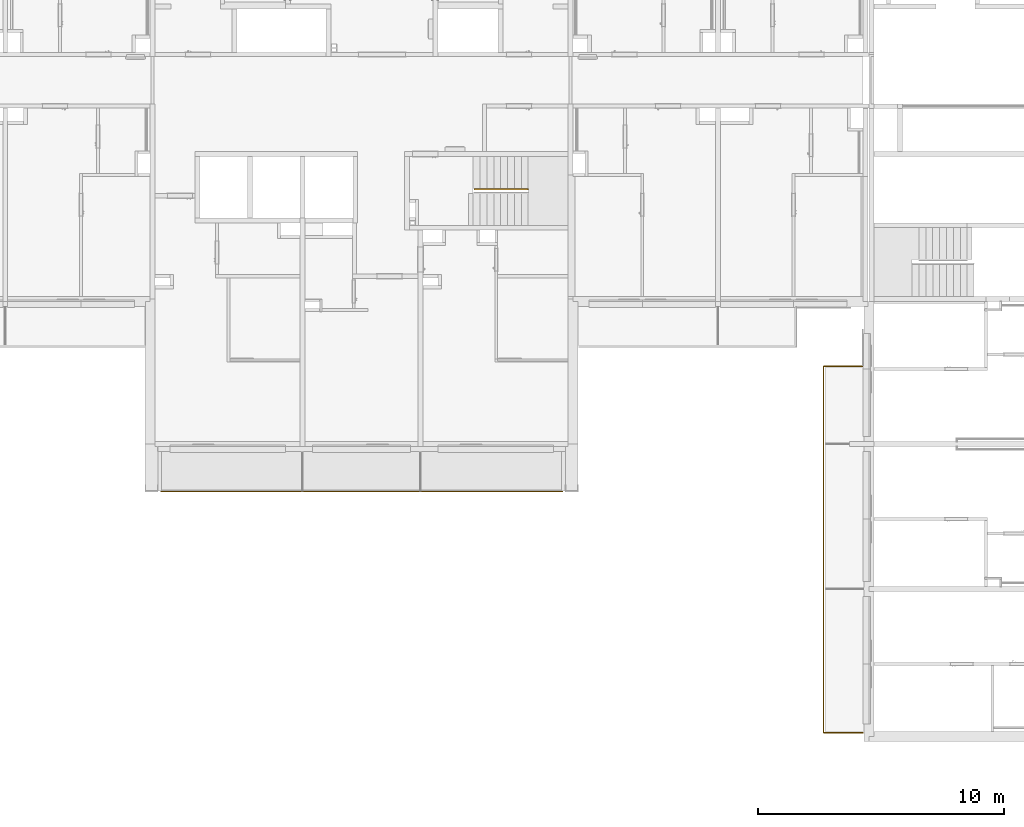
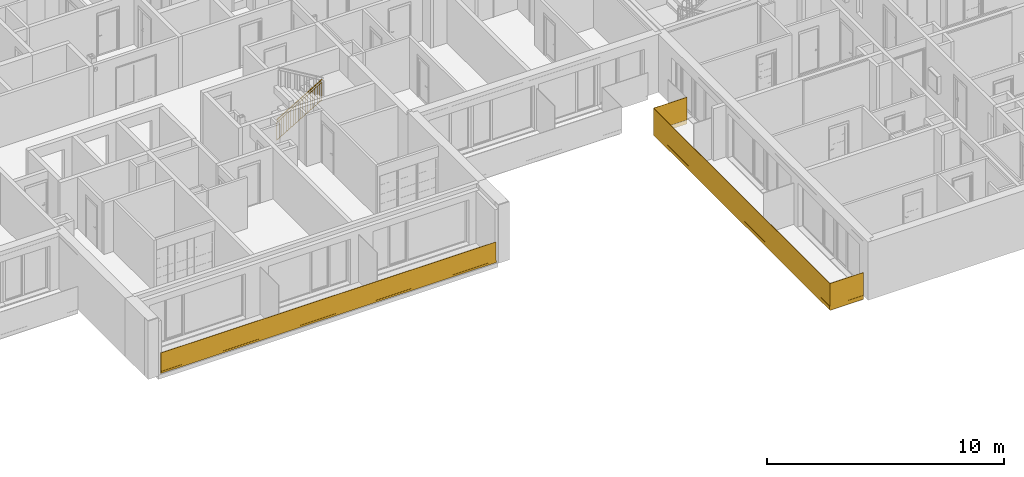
# One storey, part 6 of 66: 3 railings.
"""IFC2X3 building model written with IfcOpenShell, lengths in millimetres."""

from ifc_helpers import new_model, entity, si_unit, converted_unit, derived_unit, money_unit, direction, frame, origin_with_axes, place, context, subcontext, project, spatial, faceted_brep, material, material_list, type_object, element, save


model = new_model("IFC2X3")

# Units and contexts
model_context = context("Model", 3, precision=0.01, world=origin_with_axes(), true_north=direction((0.34421633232, 0.938890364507)))
body_context = subcontext(model_context, "Body", "Model", "MODEL_VIEW")
ifc_project = project(units=[si_unit("LENGTHUNIT", "METRE", prefix="MILLI"), si_unit("AREAUNIT", "SQUARE_METRE"), si_unit("VOLUMEUNIT", "CUBIC_METRE"), converted_unit("PLANEANGLEUNIT", "DEGREE", entity("IfcPlaneAngleMeasure", 0.0174532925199), si_unit("PLANEANGLEUNIT", "RADIAN"), dimensions=[0, 0, 0, 0, 0, 0, 0]), si_unit("SOLIDANGLEUNIT", "STERADIAN"), money_unit("USD"), converted_unit("TIMEUNIT", "Year", entity("IfcTimeMeasure", 31556926.0), si_unit("TIMEUNIT", "SECOND"), dimensions=[0, 0, 1, 0, 0, 0, 0]), si_unit("MASSUNIT", "GRAM", prefix="KILO"), si_unit("THERMODYNAMICTEMPERATUREUNIT", "DEGREE_CELSIUS"), si_unit("LUMINOUSINTENSITYUNIT", "LUMEN"), si_unit("ENERGYUNIT", "JOULE", prefix="MEGA"), derived_unit("THERMALCONDUCTANCEUNIT", [(si_unit("POWERUNIT", "WATT"), 1), (si_unit("LENGTHUNIT", "METRE"), -1), (si_unit("THERMODYNAMICTEMPERATUREUNIT", "KELVIN"), -1)]), derived_unit("SPECIFICHEATCAPACITYUNIT", [(si_unit("ENERGYUNIT", "JOULE"), 1), (si_unit("MASSUNIT", "GRAM", prefix="KILO"), -1), (si_unit("THERMODYNAMICTEMPERATUREUNIT", "KELVIN"), -1)]), derived_unit("MASSDENSITYUNIT", [(si_unit("MASSUNIT", "GRAM", prefix="KILO"), 1), (si_unit("VOLUMEUNIT", "CUBIC_METRE"), -1)])], contexts=[model_context])

# Site, building, storey
site_placement = place(None, origin_with_axes())
site = spatial("IfcSite", under=ifc_project, at=site_placement, Name="USTRONIE MORSKIE", CompositionType="ELEMENT")
building_placement = place(site_placement, origin_with_axes())
building = spatial("IfcBuilding", under=site, at=building_placement, Name="Budynek", CompositionType="ELEMENT")
storey_placement = place(building_placement, frame((0.0, 0.0, 10000.0), z_axis=(0.0, 0.0, 1.0), x_axis=(1.0, 0.0, 0.0)))
storey = spatial("IfcBuildingStorey", under=building, at=storey_placement, Name="PIĘTRO 3", CompositionType="ELEMENT", Elevation=10000.0)

# Railings
ifc_material_1 = material(Name="Szkło struktualne")
ifc_material_2 = material(Name="Profile aluminiowe")
ifc_material_list_1 = material_list([ifc_material_1, ifc_material_2])
railing_type = type_object("IfcRailingType", Name="Typ balustrady", PredefinedType="NOTDEFINED")
railing_1_placement = place(storey_placement, frame((396597.920919, 720851.199036, 30.0), z_axis=(0.0, 0.0, 1.0), x_axis=(1.0, 0.0, 0.0)))
element("IfcRailing", 1, at=railing_1_placement, inside=storey, type_object=railing_type, material=ifc_material_list_1, Name="BL1", PredefinedType="NOTDEFINED", context=body_context, shape_type="Brep", body=[
    faceted_brep([(-16960.0, -1790.0, -100.0), (-600.0, -1790.0, -100.0), (-600.0, -1790.0, 950.0), (-16960.0, -1790.0, 950.0), (-600.0, -1770.0, -100.0), (-16960.0, -1770.0, -100.0), (-600.0, -1770.0, 950.0), (-16960.0, -1770.0, 950.0)], [[[0, 1, 2, 3]], [[4, 1, 0, 5]], [[6, 2, 1, 4]], [[3, 2, 6, 7]], [[0, 3, 7, 5]], [[6, 4, 5, 7]]]),
    faceted_brep([(-600.0, -1765.0, -105.0), (-16960.0, -1765.0, -105.0), (-16960.0, -1765.0, -5.0), (-600.0, -1765.0, -5.0), (-600.0, -1795.0, -105.0), (-16960.0, -1795.0, -105.0), (-16960.0, -1795.0, -5.0), (-16960.0, -1790.0, -5.0), (-16960.0, -1790.0, -100.0), (-16960.0, -1770.0, -100.0), (-16960.0, -1770.0, -5.0), (-600.0, -1770.0, -5.0), (-600.0, -1790.0, -100.0), (-600.0, -1790.0, -5.0), (-600.0, -1795.0, -5.0), (-600.0, -1770.0, -100.0)], [[[0, 1, 2, 3]], [[4, 5, 1, 0]], [[5, 6, 7, 8, 9, 10, 2, 1]], [[3, 2, 10, 11]], [[12, 13, 14, 4, 0, 3, 11, 15]], [[5, 4, 14, 6]], [[14, 13, 7, 6]], [[13, 12, 8, 7]], [[12, 15, 9, 8]], [[9, 15, 11, 10]]]),
])
ifc_material_list_2 = material_list([ifc_material_1, ifc_material_2, ifc_material_1, ifc_material_2, ifc_material_1, ifc_material_2])
railing_2_placement = place(storey_placement, frame((408267.914768, 724111.198359, 0.0), z_axis=(0.0, 0.0, 1.0), x_axis=(-1.0, 0.0, 0.0)))
element("IfcRailing", 2, at=railing_2_placement, inside=storey, type_object=railing_type, material=ifc_material_list_2, Name="BL1", PredefinedType="NOTDEFINED", context=body_context, shape_type="Brep", body=[
    faceted_brep([(29.9999996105, -40.0000002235, -300.00000039), (29.9999996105, -40.0000002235, 1069.99999972), (1639.99901128, -40.0000002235, 1069.99999972), (1639.99901128, -40.0000002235, -300.00000039), (29.9999996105, -59.9999997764, 1069.99999972), (29.9999996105, -59.9999997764, -300.00000039), (1659.99896906, -59.9999997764, 1069.99999972), (1659.99896906, -59.9999997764, -300.00000039)], [[[0, 1, 2, 3]], [[4, 1, 0, 5]], [[2, 1, 4, 6]], [[3, 2, 6, 7]], [[5, 0, 3, 7]], [[6, 4, 5, 7]]]),
    faceted_brep([(1649.99899054, -64.9999999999, -105.0), (30.0, -64.9999999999, -105.0), (30.0, -64.9999999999, -305.0), (1649.99899054, -64.9999999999, -305.0), (1649.99899054, -59.9999999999, -105.0), (30.0, -59.9999999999, -105.0), (30.0, -59.9999999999, -300.0), (30.0, -40.0, -300.0), (30.0, -40.0, -105.0), (30.0, -35.0, -105.0), (30.0, -35.0, -305.0), (1649.99899054, -35.0, -305.0), (1649.99899054, -35.0, -105.0), (1649.99899054, -40.0, -105.0), (1649.99899054, -40.0, -300.0), (1649.99899054, -59.9999999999, -300.0)], [[[0, 1, 2, 3]], [[1, 0, 4, 5]], [[6, 7, 8, 9, 10, 2, 1, 5]], [[10, 11, 3, 2]], [[11, 12, 13, 14, 15, 4, 0, 3]], [[15, 6, 5, 4]], [[7, 6, 15, 14]], [[8, 7, 14, 13]], [[9, 8, 13, 12]], [[11, 10, 9, 12]]]),
    faceted_brep([(1639.99901165, -40.000000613, -300.00000039), (1639.99901165, -40.000000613, 1069.99999972), (1640.03011585, 14849.9993229, 1069.99999972), (1640.03011585, 14849.9993229, -300.00000039), (1659.99896943, -60.0000001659, 1069.99999972), (1659.99896943, -60.0000001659, -300.00000039), (1660.03015719, 14869.9993224, 1069.99999972), (1660.03015719, 14869.9993224, -300.00000039)], [[[0, 1, 2, 3]], [[4, 1, 0, 5]], [[2, 1, 4, 6]], [[3, 2, 6, 7]], [[5, 0, 3, 7]], [[6, 4, 5, 7]]]),
    faceted_brep([(1665.03013652, 14859.9992911, -105.0), (1664.99899054, -50.000031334, -105.0), (1664.99899054, -50.000031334, -305.0), (1665.03013652, 14859.9992911, -305.0), (1660.03013652, 14859.9993015, -105.0), (1659.99899054, -50.0000208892, -105.0), (1659.99899054, -50.0000208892, -300.0), (1639.99899054, -49.9999791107, -300.0), (1639.99899054, -49.9999791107, -105.0), (1634.99899054, -49.9999686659, -105.0), (1634.99899054, -49.9999686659, -305.0), (1635.03013652, 14859.9993537, -305.0), (1635.03013652, 14859.9993537, -105.0), (1640.03013652, 14859.9993433, -105.0), (1640.03013652, 14859.9993433, -300.0), (1660.03013652, 14859.9993015, -300.0)], [[[0, 1, 2, 3]], [[1, 0, 4, 5]], [[6, 7, 8, 9, 10, 2, 1, 5]], [[10, 11, 3, 2]], [[11, 12, 13, 14, 15, 4, 0, 3]], [[15, 6, 5, 4]], [[7, 6, 15, 14]], [[8, 7, 14, 13]], [[9, 8, 13, 12]], [[11, 10, 9, 12]]]),
    faceted_brep([(1640.03011624, 14849.9993226, -300.00000039), (1640.03011624, 14849.9993226, 1069.99999972), (30.0628355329, 14849.9993226, 1069.99999972), (30.0628355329, 14849.9993226, -300.00000039), (1660.03015757, 14869.9993222, 1069.99999972), (1660.03015757, 14869.9993222, -300.00000039), (30.0628355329, 14869.9993222, 1069.99999972), (30.0628355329, 14869.9993222, -300.00000039)], [[[0, 1, 2, 3]], [[4, 1, 0, 5]], [[2, 1, 4, 6]], [[3, 2, 6, 7]], [[5, 0, 3, 7]], [[6, 4, 5, 7]]]),
    faceted_brep([(30.0628352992, 14874.9993224, -105.0), (1650.03013652, 14874.9993224, -105.0), (1650.03013652, 14874.9993224, -305.0), (30.0628352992, 14874.9993224, -305.0), (30.0628352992, 14869.9993224, -105.0), (1650.03013652, 14869.9993224, -105.0), (1650.03013652, 14849.9993224, -300.0), (1650.03013652, 14849.9993224, -105.0), (1650.03013652, 14844.9993224, -105.0), (1650.03013652, 14844.9993224, -305.0), (1650.03013652, 14869.9993224, -300.0), (30.0628352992, 14844.9993224, -305.0), (30.0628352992, 14844.9993224, -105.0), (30.0628352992, 14849.9993224, -105.0), (30.0628352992, 14849.9993224, -300.0), (30.0628352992, 14869.9993224, -300.0)], [[[0, 1, 2, 3]], [[1, 0, 4, 5]], [[6, 7, 8, 9, 2, 1, 5, 10]], [[9, 11, 3, 2]], [[11, 12, 13, 14, 15, 4, 0, 3]], [[15, 10, 5, 4]], [[7, 6, 14, 13]], [[8, 7, 13, 12]], [[11, 9, 8, 12]], [[6, 10, 15, 14]]]),
])
ifc_material_3 = material(Name="Stal konstrukcyjna")
ifc_material_4 = material(Name="Stal nierdzewna")
ifc_material_list_3 = material_list([ifc_material_3, ifc_material_3, ifc_material_4, ifc_material_4, ifc_material_4, ifc_material_3, ifc_material_3, ifc_material_3, ifc_material_3, ifc_material_3, ifc_material_3, ifc_material_3, ifc_material_3, ifc_material_3, ifc_material_3, ifc_material_3, ifc_material_3, ifc_material_3, ifc_material_3, ifc_material_3, ifc_material_3, ifc_material_3, ifc_material_3])
railing_3_placement = place(storey_placement, frame((392357.920919, 731401.199036, 187.126021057), z_axis=(0.0, 0.0, 1.0), x_axis=(1.0, 0.0, 0.0)))
element("IfcRailing", 3, at=railing_3_placement, inside=storey, type_object=railing_type, material=ifc_material_list_3, Name="BL1", PredefinedType="NOTDEFINED", context=body_context, shape_type="Brep", body=[
    faceted_brep([(44.3717153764, -45.0, -144.047619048), (44.3717153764, -25.0, -144.047619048), (44.3717153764, -25.0, 755.952380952), (44.3717153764, -45.0, 755.952380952), (24.3717153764, -45.0, -155.952380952), (24.3717153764, -25.0, -155.952380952), (39.3717153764, -40.0, -147.023809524), (39.3717153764, -30.0, -147.023809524), (29.3717153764, -30.0, -152.976190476), (29.3717153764, -40.0, -152.976190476), (24.3717153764, -25.0, 744.047619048), (24.3717153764, -45.0, 744.047619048), (39.3717153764, -40.0, 752.976190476), (29.3717153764, -40.0, 747.023809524), (29.3717153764, -30.0, 747.023809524), (39.3717153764, -30.0, 752.976190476)], [[[0, 1, 2, 3]], [[0, 4, 5, 1], [6, 7, 8, 9]], [[1, 5, 10, 2]], [[3, 2, 10, 11], [12, 13, 14, 15]], [[4, 0, 3, 11]], [[5, 4, 11, 10]], [[7, 6, 12, 15]], [[8, 7, 15, 14]], [[9, 8, 14, 13]], [[6, 9, 13, 12]]]),
    faceted_brep([(2250.0, -45.0, 1168.8263599), (2250.0, -25.0, 1168.8263599), (2250.0, -25.0, 2068.8263599), (2250.0, -45.0, 2068.8263599), (2230.0, -45.0, 1156.92159799), (2230.0, -25.0, 1156.92159799), (2245.0, -40.0, 1165.85016942), (2245.0, -30.0, 1165.85016942), (2235.0, -30.0, 1159.89778847), (2235.0, -40.0, 1159.89778847), (2230.0, -25.0, 2056.92159799), (2230.0, -45.0, 2056.92159799), (2245.0, -40.0, 2065.85016942), (2235.0, -40.0, 2059.89778847), (2235.0, -30.0, 2059.89778847), (2245.0, -30.0, 2065.85016942)], [[[0, 1, 2, 3]], [[0, 4, 5, 1], [6, 7, 8, 9]], [[1, 5, 10, 2]], [[3, 2, 10, 11], [12, 13, 14, 15]], [[4, 0, 3, 11]], [[5, 4, 11, 10]], [[7, 6, 12, 15]], [[8, 7, 15, 14]], [[9, 8, 14, 13]], [[6, 9, 13, 12]]]),
    faceted_brep([(34.3717153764, -59.9999999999, 900.0), (47.1588118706, -59.9999999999, 878.51767789), (2252.78709649, -59.9999999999, 2191.39165683), (2240.0, -59.9999999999, 2212.87397894), (34.3717153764, -9.99999999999, 900.0), (47.1588118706, -9.99999999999, 878.51767789), (47.1588118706, -25.0, 878.51767789), (44.6013925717, -25.0, 882.814142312), (44.6013925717, -45.0, 882.814142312), (47.1588118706, -45.0, 878.51767789), (2252.78709649, -45.0, 2191.39165683), (2250.2296772, -45.0, 2195.68812125), (2250.2296772, -25.0, 2195.68812125), (2252.78709649, -25.0, 2191.39165683), (2252.78709649, -9.99999999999, 2191.39165683), (2240.0, -9.99999999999, 2212.87397894)], [[[0, 1, 2, 3]], [[0, 4, 5, 6, 7, 8, 9, 1]], [[1, 9, 10, 2]], [[3, 2, 10, 11, 12, 13, 14, 15]], [[4, 0, 3, 15]], [[5, 4, 15, 14]], [[6, 5, 14, 13]], [[7, 6, 13, 12]], [[8, 7, 12, 11]], [[9, 8, 11, 10]]]),
    faceted_brep([(47.1588118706, -45.0, 878.51767789), (47.1588118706, -25.0, 878.51767789), (2252.78709649, -25.0, 2191.39165683), (2252.78709649, -45.0, 2191.39165683), (44.6013925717, -45.0, 882.814142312), (44.6013925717, -25.0, 882.814142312), (2250.2296772, -25.0, 2195.68812125), (2250.2296772, -45.0, 2195.68812125)], [[[0, 1, 2, 3]], [[0, 4, 5, 1]], [[1, 5, 6, 2]], [[3, 2, 6, 7]], [[4, 0, 3, 7]], [[5, 4, 7, 6]]]),
    faceted_brep([(79.8363595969, -45.0, 776.480503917), (79.8363595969, -25.0, 776.480503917), (79.8363595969, -25.0, 897.968599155), (79.8363595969, -45.0, 897.968599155), (74.8363595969, -45.0, 776.480503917), (74.8363595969, -25.0, 776.480503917), (74.8363595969, -25.0, 896.480503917), (77.3363595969, -25.0, 897.968599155), (77.3363595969, -45.0, 897.968599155), (74.8363595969, -45.0, 896.480503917)], [[[0, 1, 2, 3]], [[0, 4, 5, 1]], [[1, 5, 6, 7, 2]], [[3, 2, 7, 8]], [[4, 0, 3, 8, 9]], [[5, 4, 9, 6]], [[7, 6, 9, 8]]]),
    faceted_brep([(2199.53535578, -45.0, 2038.20609688), (2199.53535578, -25.0, 2038.20609688), (2199.53535578, -25.0, 2159.69419212), (2199.53535578, -45.0, 2159.69419212), (2194.53535578, -45.0, 2038.20609688), (2194.53535578, -25.0, 2038.20609688), (2194.53535578, -25.0, 2158.20609688), (2197.03535578, -25.0, 2159.69419212), (2197.03535578, -45.0, 2159.69419212), (2194.53535578, -45.0, 2158.20609688)], [[[0, 1, 2, 3]], [[0, 4, 5, 1]], [[1, 5, 6, 7, 2]], [[3, 2, 7, 8]], [[4, 0, 3, 8, 9]], [[5, 4, 9, 6]], [[7, 6, 9, 8]]]),
    faceted_brep([(34.3717153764, -54.9999999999, 750.0), (36.9291346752, -54.9999999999, 745.703535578), (2242.5574193, -54.9999999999, 2058.57751452), (2240.0, -54.9999999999, 2062.87397894), (34.3717153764, -15.0, 750.0), (36.9291346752, -15.0, 745.703535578), (2242.5574193, -15.0, 2058.57751452), (2240.0, -15.0, 2062.87397894)], [[[0, 1, 2, 3]], [[0, 4, 5, 1]], [[1, 5, 6, 2]], [[3, 2, 6, 7]], [[4, 0, 3, 7]], [[5, 4, 7, 6]]]),
    faceted_brep([(33.093005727, -54.9999999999, -157.851767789), (35.6504250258, -54.9999999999, -162.148232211), (2241.27870965, -54.9999999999, 1150.72574673), (2238.72129035, -54.9999999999, 1155.02221115), (33.093005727, -15.0, -157.851767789), (35.6504250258, -15.0, -162.148232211), (2241.27870965, -15.0, 1150.72574673), (2238.72129035, -15.0, 1155.02221115)], [[[0, 1, 2, 3]], [[0, 4, 5, 1]], [[1, 5, 6, 2]], [[3, 2, 6, 7]], [[4, 0, 3, 7]], [[5, 4, 7, 6]]]),
    faceted_brep([(155.457414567, -47.5, -82.9251790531), (155.457414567, -22.4999999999, -82.9251790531), (155.457414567, -22.4999999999, 817.074820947), (155.457414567, -47.5, 817.074820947), (145.457414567, -47.5, -88.8775600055), (145.457414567, -22.4999999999, -88.8775600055), (145.457414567, -22.4999999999, 811.122439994), (145.457414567, -47.5, 811.122439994)], [[[0, 1, 2, 3]], [[0, 4, 5, 1]], [[1, 5, 6, 2]], [[3, 2, 6, 7]], [[4, 0, 3, 7]], [[5, 4, 7, 6]]]),
    faceted_brep([(271.543113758, -47.5, -13.8265485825), (271.543113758, -22.4999999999, -13.8265485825), (271.543113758, -22.4999999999, 886.173451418), (271.543113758, -47.5, 886.173451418), (261.543113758, -47.5, -19.7789295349), (261.543113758, -22.4999999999, -19.7789295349), (261.543113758, -22.4999999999, 880.221070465), (261.543113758, -47.5, 880.221070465)], [[[0, 1, 2, 3]], [[0, 4, 5, 1]], [[1, 5, 6, 2]], [[3, 2, 6, 7]], [[4, 0, 3, 7]], [[5, 4, 7, 6]]]),
    faceted_brep([(387.628812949, -47.5, 55.2720818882), (387.628812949, -22.4999999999, 55.2720818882), (387.628812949, -22.4999999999, 955.272081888), (387.628812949, -47.5, 955.272081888), (377.628812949, -47.5, 49.3197009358), (377.628812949, -22.4999999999, 49.3197009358), (377.628812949, -22.4999999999, 949.319700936), (377.628812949, -47.5, 949.319700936)], [[[0, 1, 2, 3]], [[0, 4, 5, 1]], [[1, 5, 6, 2]], [[3, 2, 6, 7]], [[4, 0, 3, 7]], [[5, 4, 7, 6]]]),
    faceted_brep([(503.714512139, -47.5, 124.370712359), (503.714512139, -22.4999999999, 124.370712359), (503.714512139, -22.4999999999, 1024.37071236), (503.714512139, -47.5, 1024.37071236), (493.714512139, -47.5, 118.418331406), (493.714512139, -22.4999999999, 118.418331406), (493.714512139, -22.4999999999, 1018.41833141), (493.714512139, -47.5, 1018.41833141)], [[[0, 1, 2, 3]], [[0, 4, 5, 1]], [[1, 5, 6, 2]], [[3, 2, 6, 7]], [[4, 0, 3, 7]], [[5, 4, 7, 6]]]),
    faceted_brep([(619.80021133, -47.5, 193.46934283), (619.80021133, -22.4999999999, 193.46934283), (619.80021133, -22.4999999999, 1093.46934283), (619.80021133, -47.5, 1093.46934283), (609.80021133, -47.5, 187.516961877), (609.80021133, -22.4999999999, 187.516961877), (609.80021133, -22.4999999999, 1087.51696188), (609.80021133, -47.5, 1087.51696188)], [[[0, 1, 2, 3]], [[0, 4, 5, 1]], [[1, 5, 6, 2]], [[3, 2, 6, 7]], [[4, 0, 3, 7]], [[5, 4, 7, 6]]]),
    faceted_brep([(735.885910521, -47.5, 262.5679733), (735.885910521, -22.4999999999, 262.5679733), (735.885910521, -22.4999999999, 1162.5679733), (735.885910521, -47.5, 1162.5679733), (725.885910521, -47.5, 256.615592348), (725.885910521, -22.4999999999, 256.615592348), (725.885910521, -22.4999999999, 1156.61559235), (725.885910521, -47.5, 1156.61559235)], [[[0, 1, 2, 3]], [[0, 4, 5, 1]], [[1, 5, 6, 2]], [[3, 2, 6, 7]], [[4, 0, 3, 7]], [[5, 4, 7, 6]]]),
    faceted_brep([(851.971609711, -47.5, 331.666603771), (851.971609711, -22.4999999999, 331.666603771), (851.971609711, -22.4999999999, 1231.66660377), (851.971609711, -47.5, 1231.66660377), (841.971609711, -47.5, 325.714222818), (841.971609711, -22.4999999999, 325.714222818), (841.971609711, -22.4999999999, 1225.71422282), (841.971609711, -47.5, 1225.71422282)], [[[0, 1, 2, 3]], [[0, 4, 5, 1]], [[1, 5, 6, 2]], [[3, 2, 6, 7]], [[4, 0, 3, 7]], [[5, 4, 7, 6]]]),
    faceted_brep([(968.057308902, -47.5, 400.765234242), (968.057308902, -22.4999999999, 400.765234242), (968.057308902, -22.4999999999, 1300.76523424), (968.057308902, -47.5, 1300.76523424), (958.057308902, -47.5, 394.812853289), (958.057308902, -22.4999999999, 394.812853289), (958.057308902, -22.4999999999, 1294.81285329), (958.057308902, -47.5, 1294.81285329)], [[[0, 1, 2, 3]], [[0, 4, 5, 1]], [[1, 5, 6, 2]], [[3, 2, 6, 7]], [[4, 0, 3, 7]], [[5, 4, 7, 6]]]),
    faceted_brep([(1084.14300809, -47.5, 469.863864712), (1084.14300809, -22.4999999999, 469.863864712), (1084.14300809, -22.4999999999, 1369.86386471), (1084.14300809, -47.5, 1369.86386471), (1074.14300809, -47.5, 463.91148376), (1074.14300809, -22.4999999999, 463.91148376), (1074.14300809, -22.4999999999, 1363.91148376), (1074.14300809, -47.5, 1363.91148376)], [[[0, 1, 2, 3]], [[0, 4, 5, 1]], [[1, 5, 6, 2]], [[3, 2, 6, 7]], [[4, 0, 3, 7]], [[5, 4, 7, 6]]]),
    faceted_brep([(1200.22870728, -47.5, 538.962495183), (1200.22870728, -22.4999999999, 538.962495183), (1200.22870728, -22.4999999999, 1438.96249518), (1200.22870728, -47.5, 1438.96249518), (1190.22870728, -47.5, 533.01011423), (1190.22870728, -22.4999999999, 533.01011423), (1190.22870728, -22.4999999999, 1433.01011423), (1190.22870728, -47.5, 1433.01011423)], [[[0, 1, 2, 3]], [[0, 4, 5, 1]], [[1, 5, 6, 2]], [[3, 2, 6, 7]], [[4, 0, 3, 7]], [[5, 4, 7, 6]]]),
    faceted_brep([(1316.31440647, -47.5, 608.061125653), (1316.31440647, -22.4999999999, 608.061125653), (1316.31440647, -22.4999999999, 1508.06112565), (1316.31440647, -47.5, 1508.06112565), (1306.31440647, -47.5, 602.108744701), (1306.31440647, -22.4999999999, 602.108744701), (1306.31440647, -22.4999999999, 1502.1087447), (1306.31440647, -47.5, 1502.1087447)], [[[0, 1, 2, 3]], [[0, 4, 5, 1]], [[1, 5, 6, 2]], [[3, 2, 6, 7]], [[4, 0, 3, 7]], [[5, 4, 7, 6]]]),
    faceted_brep([(1432.40010567, -47.5, 677.159756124), (1432.40010567, -22.4999999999, 677.159756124), (1432.40010567, -22.4999999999, 1577.15975612), (1432.40010567, -47.5, 1577.15975612), (1422.40010567, -47.5, 671.207375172), (1422.40010567, -22.4999999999, 671.207375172), (1422.40010567, -22.4999999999, 1571.20737517), (1422.40010567, -47.5, 1571.20737517)], [[[0, 1, 2, 3]], [[0, 4, 5, 1]], [[1, 5, 6, 2]], [[3, 2, 6, 7]], [[4, 0, 3, 7]], [[5, 4, 7, 6]]]),
    faceted_brep([(1548.48580486, -47.5, 746.258386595), (1548.48580486, -22.4999999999, 746.258386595), (1548.48580486, -22.4999999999, 1646.25838659), (1548.48580486, -47.5, 1646.25838659), (1538.48580486, -47.5, 740.306005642), (1538.48580486, -22.4999999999, 740.306005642), (1538.48580486, -22.4999999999, 1640.30600564), (1538.48580486, -47.5, 1640.30600564)], [[[0, 1, 2, 3]], [[0, 4, 5, 1]], [[1, 5, 6, 2]], [[3, 2, 6, 7]], [[4, 0, 3, 7]], [[5, 4, 7, 6]]]),
    faceted_brep([(1664.57150405, -47.5, 815.357017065), (1664.57150405, -22.4999999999, 815.357017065), (1664.57150405, -22.4999999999, 1715.35701707), (1664.57150405, -47.5, 1715.35701707), (1654.57150405, -47.5, 809.404636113), (1654.57150405, -22.4999999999, 809.404636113), (1654.57150405, -22.4999999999, 1709.40463611), (1654.57150405, -47.5, 1709.40463611)], [[[0, 1, 2, 3]], [[0, 4, 5, 1]], [[1, 5, 6, 2]], [[3, 2, 6, 7]], [[4, 0, 3, 7]], [[5, 4, 7, 6]]]),
    faceted_brep([(1780.65720324, -47.5, 884.455647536), (1780.65720324, -22.4999999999, 884.455647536), (1780.65720324, -22.4999999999, 1784.45564754), (1780.65720324, -47.5, 1784.45564754), (1770.65720324, -47.5, 878.503266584), (1770.65720324, -22.4999999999, 878.503266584), (1770.65720324, -22.4999999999, 1778.50326658), (1770.65720324, -47.5, 1778.50326658)], [[[0, 1, 2, 3]], [[0, 4, 5, 1]], [[1, 5, 6, 2]], [[3, 2, 6, 7]], [[4, 0, 3, 7]], [[5, 4, 7, 6]]]),
    faceted_brep([(1896.74290243, -47.5, 953.554278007), (1896.74290243, -22.4999999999, 953.554278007), (1896.74290243, -22.4999999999, 1853.55427801), (1896.74290243, -47.5, 1853.55427801), (1886.74290243, -47.5, 947.601897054), (1886.74290243, -22.4999999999, 947.601897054), (1886.74290243, -22.4999999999, 1847.60189705), (1886.74290243, -47.5, 1847.60189705)], [[[0, 1, 2, 3]], [[0, 4, 5, 1]], [[1, 5, 6, 2]], [[3, 2, 6, 7]], [[4, 0, 3, 7]], [[5, 4, 7, 6]]]),
    faceted_brep([(2012.82860162, -47.5, 1022.65290848), (2012.82860162, -22.4999999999, 1022.65290848), (2012.82860162, -22.4999999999, 1922.65290848), (2012.82860162, -47.5, 1922.65290848), (2002.82860162, -47.5, 1016.70052753), (2002.82860162, -22.4999999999, 1016.70052753), (2002.82860162, -22.4999999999, 1916.70052753), (2002.82860162, -47.5, 1916.70052753)], [[[0, 1, 2, 3]], [[0, 4, 5, 1]], [[1, 5, 6, 2]], [[3, 2, 6, 7]], [[4, 0, 3, 7]], [[5, 4, 7, 6]]]),
    faceted_brep([(2128.91430081, -47.5, 1091.75153895), (2128.91430081, -22.4999999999, 1091.75153895), (2128.91430081, -22.4999999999, 1991.75153895), (2128.91430081, -47.5, 1991.75153895), (2118.91430081, -47.5, 1085.799158), (2118.91430081, -22.4999999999, 1085.799158), (2118.91430081, -22.4999999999, 1985.799158), (2118.91430081, -47.5, 1985.799158)], [[[0, 1, 2, 3]], [[0, 4, 5, 1]], [[1, 5, 6, 2]], [[3, 2, 6, 7]], [[4, 0, 3, 7]], [[5, 4, 7, 6]]]),
])

save(model, "model.ifc")
